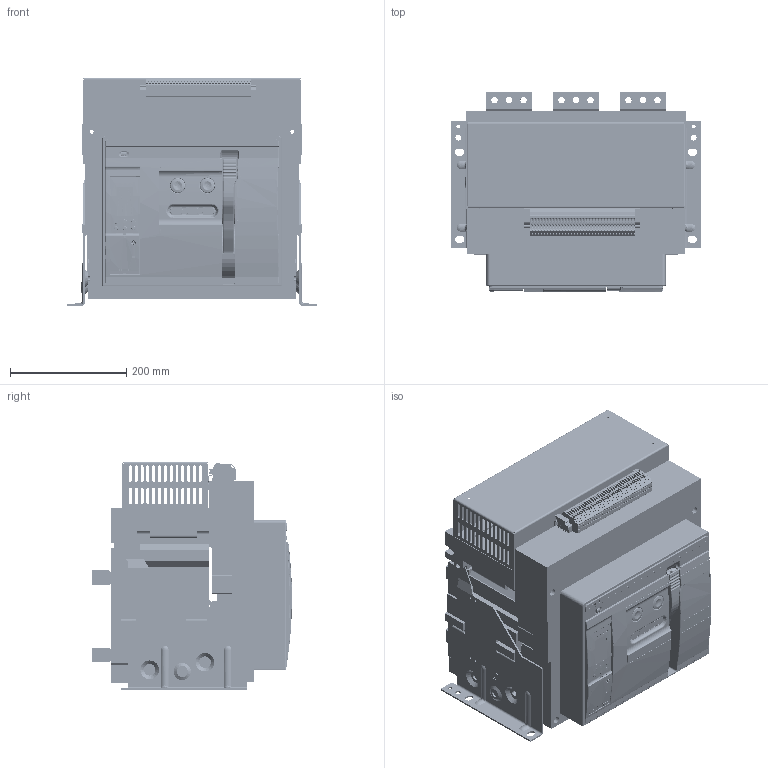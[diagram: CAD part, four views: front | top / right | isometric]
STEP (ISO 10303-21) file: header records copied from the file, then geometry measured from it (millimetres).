
FILE_DESCRIPTION(/* description */ (''),/* implementation_level */ '2;1');
FILE_NAME(/* name */ 'C:/Users/carlos.gonzalez/Documents/ADRIAN_TEMP_DRAWING/Ex9A32-3P-2500-F_PB_Drawing.step',/* time_stamp */ '2021-10-14T12:52:58+02:00',/* author */ (''),/* organization */ (''),/* preprocessor_version */ 'ST-DEVELOPER v18.1',/* originating_system */ 'Autodesk Translation Framework v10.10.0.1391',/* authorisation */ '');
FILE_SCHEMA (('AUTOMOTIVE_DESIGN { 1 0 10303 214 3 1 1 }'));
Products named in the file (38): Ex9A32-3P-2500-F; Ex9A32_3P_2500_F; Auxiliary terminals; JIEXIANDUANZI-35_ASM; 8260A0306112; 3044526_UT25_TWIN_BU; 0800886_E-NS-35-N; 081808_UC_TM_2_5; Smart unit; 8005A0101008; 5043A0101001; 8860A1424009; 8320A0101004; Main terminals; 8580A0412008; Cover; 5300A1526114_ASM; 8300A0101127_34; 8235A0101009_2; 8253A0101002_7; 8320A0101121-0814_3; 8860A0724001_4; 8ZTD_282_1203_AF1_6; 8ZTD_282_1203_AF2_6; 8253A0101107-1_5; 8253A0101106-1_5; 8860A1424194-1_1; 8282A0820014; 8253A0101010; 8253A0101108-1; Internal parts; 8300A0306007; 4000-DIBAN-3P; 8060A0306109; 8ZTD_123_167_2; 8ZTD_123_166_2; 8060A0306108; 4000-JIZUO-3P
Assembly tree (144 placements, depth 5):
  Ex9A32-3P-2500-F
    Ex9A32_3P_2500_F
      Auxiliary terminals
        JIEXIANDUANZI-35_ASM
          8260A0306112
          3044526_UT25_TWIN_BU  x35
          0800886_E-NS-35-N  x2
          081808_UC_TM_2_5  x68
      Smart unit
        8005A0101008
        5043A0101001
        8860A1424009
        8320A0101004
      Main terminals
        8580A0412008  x6
      Cover
        5300A1526114_ASM
          8300A0101127_34
          8235A0101009_2
          8253A0101002_7
          8320A0101121-0814_3
          8860A0724001_4
          8ZTD_282_1203_AF1_6
          8ZTD_282_1203_AF2_6
          8253A0101107-1_5
          8253A0101106-1_5
          8860A1424194-1_1
          8282A0820014
        8253A0101010
        8253A0101108-1
      Internal parts
        8300A0306007
        4000-DIBAN-3P
        8060A0306109
        8ZTD_123_167_2
        8ZTD_123_166_2
        8060A0306108
        4000-JIZUO-3P
Bounding box: 430 x 343.49 x 392 mm (x, y, z)
Volume: 19404039.1 mm3; surface area: 2405931.7 mm2
Topology: 136 solids, 160 shells, 10599 faces, 29831 edges, 19653 vertices
Faces by surface type: plane 6537, cylinder 3369, bspline 332, torus 236, sphere 72, cone 53
Full cylindrical faces by diameter (mm): 2 x7, 2.1 x2, 2.5 x3, 2.6 x2, 3 x11, 3.5 x11, 4 x12, 4.2 x4, 4.3 x1, 4.5 x3, 5 x16, 5.008 x1, 5.5 x4, 6 x5, 6.1 x1, 6.2 x4, 6.5 x3, 7 x6, 8 x4, 8.2 x4, 8.3 x2, 8.5 x27, 9 x2, 10 x14, 11 x18, 12 x5, 12.5 x1, 14 x1, 15 x1, 16 x1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
Entity records: 200805 total; most frequent: CARTESIAN_POINT 81115, ORIENTED_EDGE 25104, DIRECTION 23489, EDGE_CURVE 12577, LINE 8587, VECTOR 8587, VERTEX_POINT 8169, AXIS2_PLACEMENT_3D 7451
